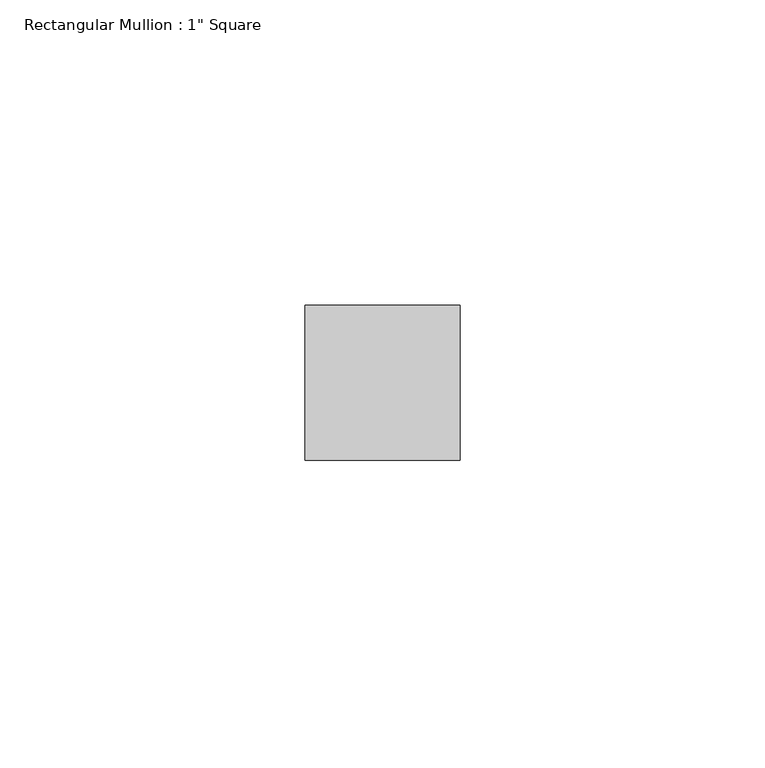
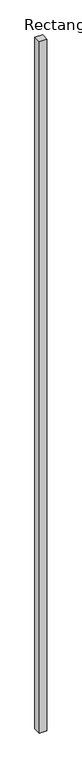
"""IFC4 building model written with IfcOpenShell, lengths in millimetres: member geometry."""

from ifc_helpers import new_model, si_unit, frame, origin, place, context, project, spatial, polyline, outline, extrude, source, transform, mapped, element, save


def member_de8bb536(model_context):
    return source(origin(), model_context, "Body", "SweptSolid", [
        extrude(outline(polyline([(12.7, 12.7), (12.7, -12.7), (-12.7, -12.7), (-12.7, 12.7), (12.7, 12.7)])), frame((0.0, 0.0, -2431.1720321), z_axis=(0.0, 0.0, 1.0), x_axis=(1.0, 0.0, 0.0)), (0.0, 0.0, 1.0), 2431.1720321),
    ])


if __name__ == "__main__":
    model = new_model("IFC4")
    model_context = context("Model", 3, world=origin())
    ifc_project = project(units=[si_unit("LENGTHUNIT", "METRE", prefix="MILLI")], contexts=[model_context])
    site = spatial("IfcSite", under=ifc_project)
    building = spatial("IfcBuilding", under=site)
    placement = place(None, origin())
    member_shape = member_de8bb536(model_context)
    element("IfcMember", 1, ObjectType="Rectangular Mullion : 1\" Square", at=placement, inside=building, context=model_context, shape_type="MappedRepresentation", body=[
        mapped(member_shape, transform((0.0, 0.0, 0.0), x_axis=(1.0, 0.0, 0.0), y_axis=(0.0, 1.0, 0.0), z_axis=(0.0, 0.0, 1.0))),
    ])
    save(model, "model.ifc")
